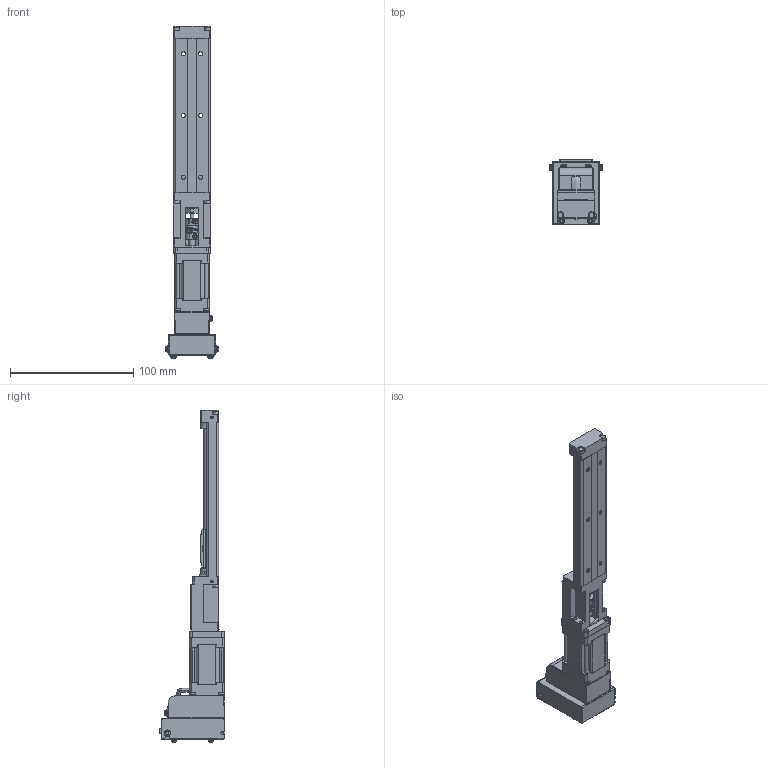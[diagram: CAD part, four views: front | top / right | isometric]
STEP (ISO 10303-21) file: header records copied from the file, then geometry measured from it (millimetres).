
FILE_DESCRIPTION (( 'STEP AP214' ), '1' );
FILE_NAME ('PA15-A-01-075-X-00A0-11L30-X.STEP', '2015-01-06T14:15:00', ( '' ), ( '' ), 'SwSTEP 2.0', 'SolidWorks 2015', '' );
FILE_SCHEMA (( 'AUTOMOTIVE_DESIGN' ));
Length unit declared in the file: millimetre
Products named in the file (5): CM1-X-11L30_CM1-X-11L30; PA15-A-01-075-X-00A0-11L30-X; PA15-A-01-075-S-00A0; RCLA13C-0.250-5; PA15-NEMA11-MountingBracket
Assembly tree (4 placements, depth 2):
  PA15-A-01-075-X-00A0-11L30-X
    CM1-X-11L30_CM1-X-11L30
    PA15-NEMA11-MountingBracket
    RCLA13C-0.250-5
    PA15-A-01-075-S-00A0
Bounding box: 43.2 x 52.35 x 268.9 mm (x, y, z)
Volume: 119193.2 mm3; surface area: 66779.5 mm2
Topology: 36 solids, 36 shells, 1731 faces, 4506 edges, 2907 vertices
Faces by surface type: plane 988, cylinder 596, cone 83, torus 56, bspline 8
Entity records: 70884 total; most frequent: CARTESIAN_POINT 17538, ORIENTED_EDGE 8964, DIRECTION 8882, EDGE_CURVE 4482, VECTOR 2980, LINE 2980, AXIS2_PLACEMENT_3D 2951, VERTEX_POINT 2907
